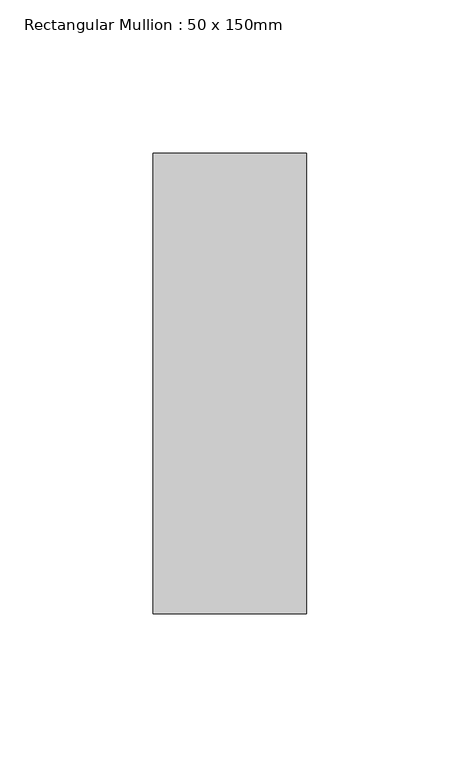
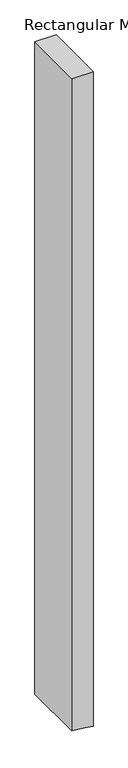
"""IFC4 building model written with IfcOpenShell, lengths in millimetres: member geometry, Rectangular Mullion : 50 x 150mm."""

from ifc_helpers import new_model, si_unit, frame, origin, place, context, project, spatial, polyline, outline, extrude, source, transform, mapped, element, save


def rectangular_mullion_50_x_150mm_6142fa02(model_context):
    return source(origin(), model_context, "Body", "SweptSolid", [
        extrude(outline(polyline([(0.0, 25.0), (0.0, -25.0), (-1621.0996806, -25.0), (-1624.5798398, 5.6423937), (-1626.778348, 25.0), (0.0, 25.0)])), frame((0.0, -75.0, 0.0), z_axis=(0.0, 1.0, 0.0), x_axis=(0.0, 0.0, 1.0)), (0.0, 0.0, 1.0), 150.0),
    ])


if __name__ == "__main__":
    model = new_model("IFC4")
    model_context = context("Model", 3, world=origin())
    ifc_project = project(units=[si_unit("LENGTHUNIT", "METRE", prefix="MILLI")], contexts=[model_context])
    site = spatial("IfcSite", under=ifc_project)
    building = spatial("IfcBuilding", under=site)
    placement = place(None, origin())
    rectangular_mullion_50_x_150mm_shape = rectangular_mullion_50_x_150mm_6142fa02(model_context)
    element("IfcMember", 1, ObjectType="Rectangular Mullion : 50 x 150mm", at=placement, inside=building, context=model_context, shape_type="MappedRepresentation", body=[
        mapped(rectangular_mullion_50_x_150mm_shape, transform((0.0, 0.0, 0.0), x_axis=(1.0, 0.0, 0.0), y_axis=(0.0, 1.0, 0.0), z_axis=(0.0, 0.0, 1.0))),
    ])
    save(model, "model.ifc")
